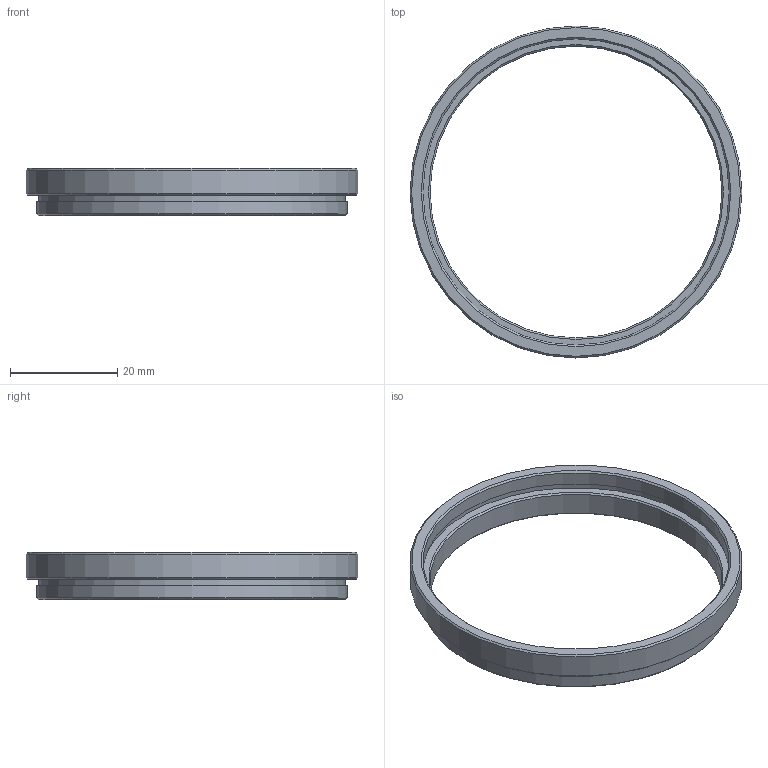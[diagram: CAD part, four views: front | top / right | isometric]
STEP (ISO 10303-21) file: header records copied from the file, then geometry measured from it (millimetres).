
FILE_DESCRIPTION (( 'STEP AP203' ), '1' );
FILE_NAME ('3d_exr-m58-l5_a001.STEP', '2019-03-15T05:19:48', ( '' ), ( '' ), 'SwSTEP 2.0', 'SolidWorks 2014', '' );
FILE_SCHEMA (( 'CONFIG_CONTROL_DESIGN' ));
Length unit declared in the file: millimetre
Products named in the file (1): 3d_exr-m58-l5_a001
Bounding box: 62 x 62 x 8.8 mm (x, y, z)
Volume: 3435.9 mm3; surface area: 4676.7 mm2
Topology: 1 solids, 1 shells, 18 faces, 33 edges, 21 vertices
Faces by surface type: cylinder 6, plane 6, cone 6
Full cylindrical faces by diameter (mm): 54.5 x1, 57.2 x2, 58 x2, 62 x1
Entity records: 445 total; most frequent: DIRECTION 74, CARTESIAN_POINT 55, AXIS2_PLACEMENT_3D 37, EDGE_LOOP 36, ORIENTED_EDGE 36, FACE_OUTER_BOUND 24, EDGE_CURVE 18, CIRCLE 18
